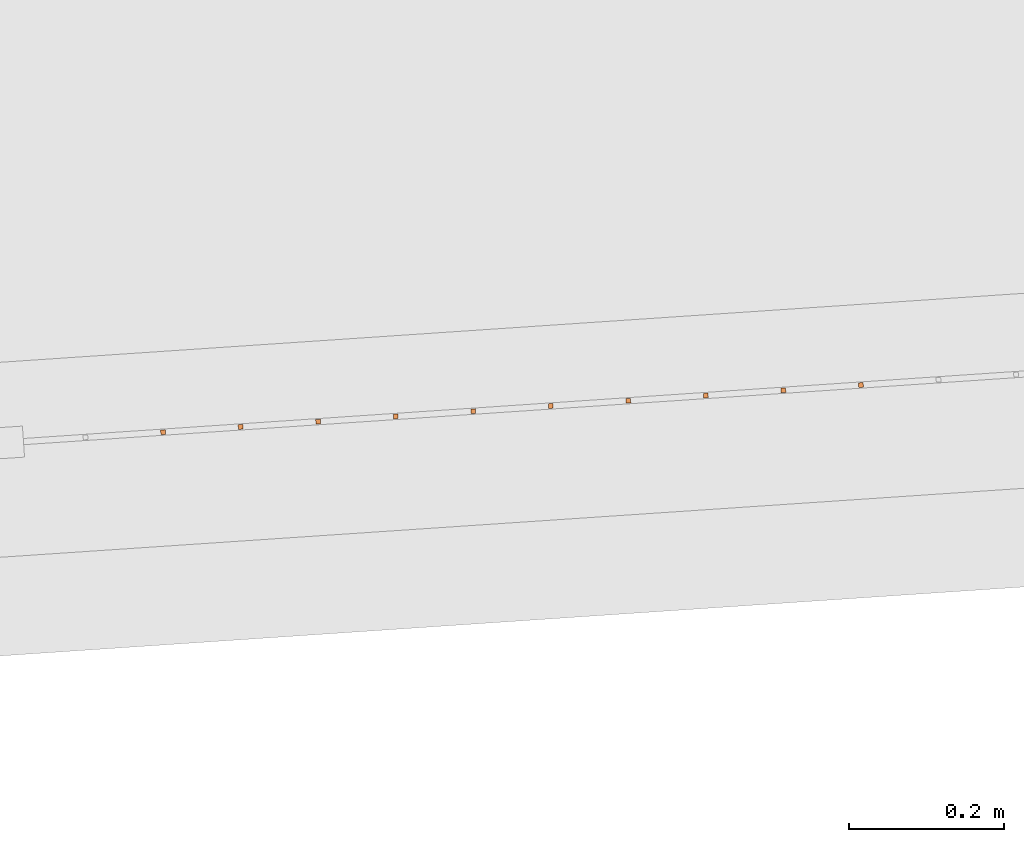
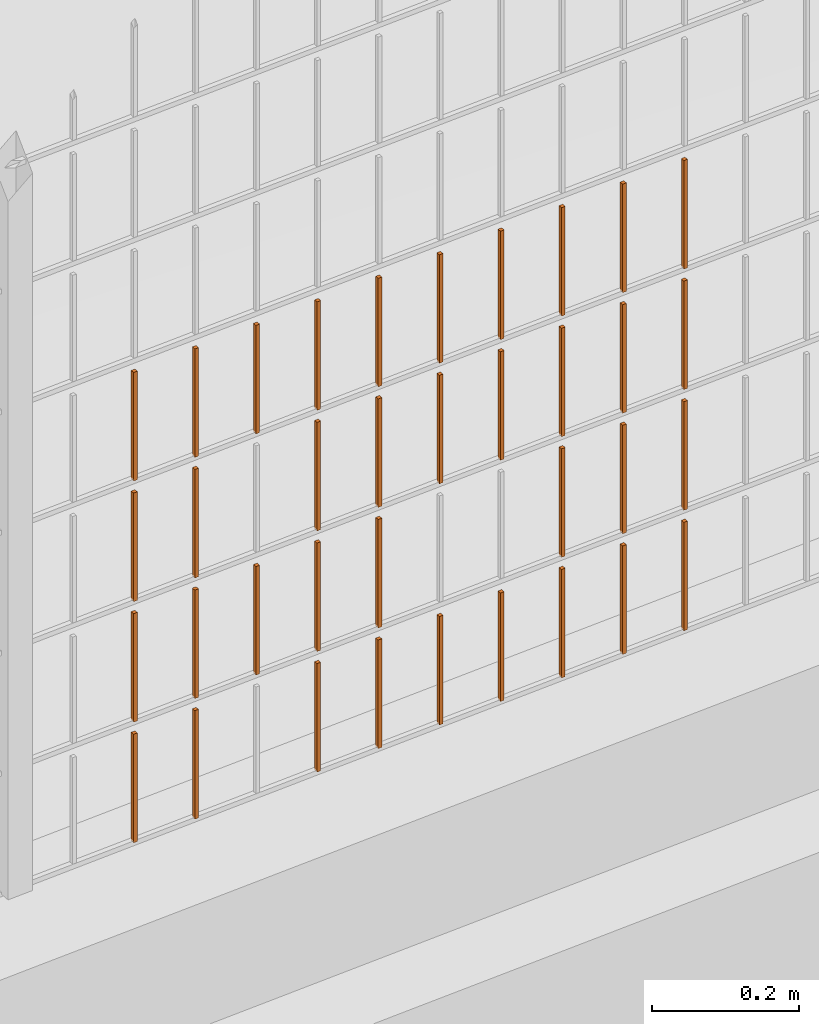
# One storey, part 366 of 1809: 36 proxies, 1 element without a shape of its own.
"""IFC2X3 building model written with IfcOpenShell, lengths in millimetres."""

import ifcopenshell
import ifcopenshell.guid

model = None  # the IFC model being written
_history = None  # IfcOwnerHistory: only IFC2X3 demands one
_inside = {}  # id of a spatial element -> (the spatial element, [elements in it])
_under = {}  # id of a project, library or spatial element -> (it, [spatial elements below it])
_declared = {}  # id of a project -> (the project, [libraries it declares])
_typed = {}  # id of a type object -> (the type object, [elements of that type])
_made_of = {}  # id of a material, layer set ... -> (it, [elements and type objects made of it])


def new_model(schema):
    """Start an empty IFC model of exactly this schema.

    Asked for "IFC4X3", IfcOpenShell would pick the latest addendum, in which some entities
    have other attributes; the version numbers below select the first issue.
    IFC2X3 requires an IfcOwnerHistory on every rooted entity: one is made here for all.
    """
    global model, _history
    if schema == "IFC4X3":
        model = ifcopenshell.file(schema_version=(4, 3, 0, 0))
    else:
        model = ifcopenshell.file(schema=schema)
    _inside.clear()
    _under.clear()
    _declared.clear()
    _typed.clear()
    _made_of.clear()
    _history = None
    if model.schema == "IFC2X3":
        org = make("IfcOrganization", Name="unknown")
        user = make(
            "IfcPersonAndOrganization",
            ThePerson=make("IfcPerson", FamilyName="unknown"),
            TheOrganization=org,
        )
        app = make(
            "IfcApplication",
            ApplicationDeveloper=org,
            Version="unknown",
            ApplicationFullName="unknown",
            ApplicationIdentifier="unknown",
        )
        _history = make(
            "IfcOwnerHistory",
            OwningUser=user,
            OwningApplication=app,
            ChangeAction="ADDED",
            CreationDate=0,
        )
    return model


def make(cls, **values):
    """One entity of the class cls with the attributes given. An attribute that is None is left unset."""
    return model.create_entity(
        cls, **{name: value for name, value in values.items() if value is not None}
    )


def entity(cls, *values):
    """Any entity or typed value of the class cls, its attributes in the order of the schema. None: left unset."""
    e = model.create_entity(cls)
    for i, value in enumerate(values):
        if value is not None:
            e[i] = value
    return e


def rooted(cls, **values):
    """An entity with a GlobalId (a new one), such as an element, a storey or a relation."""
    return make(cls, GlobalId=ifcopenshell.guid.new(), OwnerHistory=_history, **values)


def si_unit(unit_type, name, prefix=None):
    """IfcSIUnit, for example si_unit("LENGTHUNIT", "METRE", prefix="MILLI")."""
    return make("IfcSIUnit", UnitType=unit_type, Prefix=prefix, Name=name)


def converted_unit(unit_type, name, factor, base, dimensions=None, offset=None):
    """IfcConversionBasedUnit, such as the inch: factor (a typed value) times the base unit."""
    return make(
        "IfcConversionBasedUnit"
        if offset is None
        else "IfcConversionBasedUnitWithOffset",
        ConversionOffset=offset,
        Dimensions=None
        if dimensions is None
        else entity("IfcDimensionalExponents", *dimensions),
        UnitType=unit_type,
        Name=name,
        ConversionFactor=make(
            "IfcMeasureWithUnit", ValueComponent=factor, UnitComponent=base
        ),
    )


def derived_unit(unit_type, elements):
    """IfcDerivedUnit: a product of units, each with its exponent."""
    return make(
        "IfcDerivedUnit",
        Elements=[
            make("IfcDerivedUnitElement", Unit=unit, Exponent=power)
            for unit, power in elements
        ],
        UnitType=unit_type,
    )


def money_unit(currency):
    """IfcMonetaryUnit."""
    return make("IfcMonetaryUnit", Currency=currency)


def assignment(units):
    """IfcUnitAssignment: the units of a project."""
    return None if units is None else make("IfcUnitAssignment", Units=units)


def point(xyz):
    """IfcCartesianPoint."""
    return None if xyz is None else make("IfcCartesianPoint", Coordinates=xyz)


def direction(xyz):
    """IfcDirection."""
    return None if xyz is None else make("IfcDirection", DirectionRatios=xyz)


def frame(location, z_axis=None, x_axis=None):
    """IfcAxis2Placement3D, a coordinate frame: its origin and axes. An axis left out is left unset."""
    return make(
        "IfcAxis2Placement3D",
        Location=point(location),
        Axis=direction(z_axis),
        RefDirection=direction(x_axis),
    )


def origin_with_axes():
    """The frame at (0, 0, 0) with the z axis (0, 0, 1) and the x axis (1, 0, 0) written out."""
    return frame((0.0, 0.0, 0.0), z_axis=(0.0, 0.0, 1.0), x_axis=(1.0, 0.0, 0.0))


def place(relative_to, where):
    """IfcLocalPlacement: puts the frame where relative to a parent placement (None: the world)."""
    return make(
        "IfcLocalPlacement", PlacementRelTo=relative_to, RelativePlacement=where
    )


def context(
    kind, dimensions, precision=None, world=None, true_north=None, identifier=None
):
    """IfcGeometricRepresentationContext, for example the 3D "Model" context."""
    return make(
        "IfcGeometricRepresentationContext",
        ContextIdentifier=identifier,
        ContextType=kind,
        CoordinateSpaceDimension=dimensions,
        Precision=precision,
        WorldCoordinateSystem=world,
        TrueNorth=true_north,
    )


def subcontext(parent, identifier, kind, view, scale=None):
    """IfcGeometricRepresentationSubContext, for example "Body" below "Model"."""
    return make(
        "IfcGeometricRepresentationSubContext",
        ContextIdentifier=identifier,
        ContextType=kind,
        ParentContext=parent,
        TargetScale=scale,
        TargetView=view,
    )


def project(units=None, contexts=None):
    """IfcProject with its units and contexts."""
    return rooted(
        "IfcProject",
        Name="project",
        RepresentationContexts=contexts,
        UnitsInContext=assignment(units),
    )


def spatial(cls, under=None, at=None, **own):
    """A site, building, storey or space (cls), placed at a placement, below another one or the project."""
    s = rooted(cls, ObjectPlacement=at, **own)
    if under is not None:
        _under.setdefault(under.id(), (under, []))[1].append(s)
    return s


def faces_of(points, faces, orient=None, outer=None):
    """IfcFace entities. A face is a list of loops; a loop is a list of indices into points, from 0.

    orient and outer hold one flag for each loop. By default every Orientation is true, the
    first loop of a face is its IfcFaceOuterBound and the others are IfcFaceBound.
    """
    made = []
    for i, loops in enumerate(faces):
        bounds = []
        for j, loop in enumerate(loops):
            is_outer = j == 0 if outer is None else outer[i][j]
            bounds.append(
                make(
                    "IfcFaceOuterBound" if is_outer else "IfcFaceBound",
                    Bound=make("IfcPolyLoop", Polygon=[points[k] for k in loop]),
                    Orientation=True if orient is None else orient[i][j],
                )
            )
        made.append(make("IfcFace", Bounds=bounds))
    return made


def faceted_brep(points, faces, orient=None, outer=None, voids=None):
    """IfcFacetedBrep: a solid bounded by flat faces; with voids (closed shells), ...WithVoids."""
    shared = [point(p) for p in points]
    hull = make("IfcClosedShell", CfsFaces=faces_of(shared, faces, orient, outer))
    if voids is None:
        return make("IfcFacetedBrep", Outer=hull)
    return make(
        "IfcFacetedBrepWithVoids",
        Outer=hull,
        Voids=[
            make(cls, CfsFaces=faces_of(shared, fs, o, b)) for cls, fs, o, b in voids
        ],
    )


def shape(context_of_items, identifier, shape_type, items):
    """IfcShapeRepresentation: the items that make up one representation, for example the "Body"."""
    return make(
        "IfcShapeRepresentation",
        ContextOfItems=context_of_items,
        RepresentationIdentifier=identifier,
        RepresentationType=shape_type,
        Items=items,
    )


def source(mapping_origin, context_of_items, identifier, shape_type, items):
    """IfcRepresentationMap: a shape defined once, which mapped items show again and again."""
    return make(
        "IfcRepresentationMap",
        MappingOrigin=mapping_origin,
        MappedRepresentation=shape(context_of_items, identifier, shape_type, items),
    )


def transform(
    local_origin,
    x_axis=None,
    y_axis=None,
    z_axis=None,
    scale=None,
    scale2=None,
    scale3=None,
    uniform=True,
):
    """IfcCartesianTransformationOperator3D, or its non-uniform kind. x_axis, y_axis, z_axis: its Axis1, 2, 3."""
    if uniform:
        return make(
            "IfcCartesianTransformationOperator3D",
            Axis1=direction(x_axis),
            Axis2=direction(y_axis),
            LocalOrigin=point(local_origin),
            Scale=scale,
            Axis3=direction(z_axis),
        )
    return make(
        "IfcCartesianTransformationOperator3DnonUniform",
        Axis1=direction(x_axis),
        Axis2=direction(y_axis),
        LocalOrigin=point(local_origin),
        Scale=scale,
        Axis3=direction(z_axis),
        Scale2=scale2,
        Scale3=scale3,
    )


def mapped(mapping_source, mapping_target):
    """IfcMappedItem: shows the shape of a source again, moved by a transform."""
    return make(
        "IfcMappedItem", MappingSource=mapping_source, MappingTarget=mapping_target
    )


def material(Name=None, Category=None):
    """IfcMaterial."""
    return make("IfcMaterial", Name=Name, Category=Category)


def made_of(thing, what):
    """Note that an element or type object is made of a material, layer set ...; save() writes the relation."""
    if what is not None:
        _made_of.setdefault(what.id(), (what, []))[1].append(thing)
    return thing


def type_object(cls, material=None, **own):
    """A type object (cls), such as IfcWallType, which elements share."""
    return made_of(rooted(cls, **own), material)


def element(
    cls,
    number,
    at=None,
    inside=None,
    cuts=None,
    type_object=None,
    material=None,
    context=None,
    identifier="Body",
    shape_type=None,
    held_by="IfcProductDefinitionShape",
    body=None,
    shapes=None,
    **own,
):
    """One element of the class cls, such as IfcWall. Its Tag is "e" and its number.

    at: its placement. inside: the storey or other place that contains it. cuts: it is an
    opening in that element (IfcRelVoidsElement). A single representation is given by context,
    identifier, shape_type and body (its items); several are given by shapes. held_by: the class
    of the entity that holds the representations. save() writes the other relations.
    """
    e = rooted(cls, Tag="e%d" % number, ObjectPlacement=at, **own)
    if body is not None:
        shapes = [shape(context, identifier, shape_type, body)]
    if shapes is not None:
        e.Representation = make(held_by, Representations=shapes)
    if inside is not None:
        _inside.setdefault(inside.id(), (inside, []))[1].append(e)
    if cuts is not None:
        rooted(
            "IfcRelVoidsElement", RelatingBuildingElement=cuts, RelatedOpeningElement=e
        )
    if type_object is not None:
        _typed.setdefault(type_object.id(), (type_object, []))[1].append(e)
    return made_of(e, material)


def aggregate(whole, parts):
    """IfcRelAggregates: a whole, such as a stair, and the parts it consists of."""
    return rooted("IfcRelAggregates", RelatingObject=whole, RelatedObjects=parts)


def save(model, path):
    """Write the relations noted so far, then the file.

    IfcRelAggregates (storeys below a building ...), IfcRelContainedInSpatialStructure (elements
    in a storey), IfcRelDefinesByType, IfcRelAssociatesMaterial and IfcRelDeclares: one each for
    every whole, place, type object, material and project.
    """
    for whole, parts in _under.values():
        aggregate(whole, parts)
    for where, things in _inside.values():
        rooted(
            "IfcRelContainedInSpatialStructure",
            RelatedElements=things,
            RelatingStructure=where,
        )
    for kind, things in _typed.values():
        rooted("IfcRelDefinesByType", RelatedObjects=things, RelatingType=kind)
    for what, things in _made_of.values():
        rooted("IfcRelAssociatesMaterial", RelatedObjects=things, RelatingMaterial=what)
    for by, libraries in _declared.values():
        rooted("IfcRelDeclares", RelatingContext=by, RelatedDefinitions=libraries)
    model.write(path)


model = new_model("IFC2X3")

# Units and contexts
model_context = context("Model", 3, precision=0.01, world=origin_with_axes(), true_north=direction((0.0, 1.0)))
body_context = subcontext(model_context, "Body", "Model", "MODEL_VIEW")
ifc_project = project(units=[si_unit("LENGTHUNIT", "METRE", prefix="MILLI"), si_unit("AREAUNIT", "SQUARE_METRE"), si_unit("VOLUMEUNIT", "CUBIC_METRE"), converted_unit("PLANEANGLEUNIT", "DEGREE", entity("IfcPlaneAngleMeasure", 0.0174532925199), si_unit("PLANEANGLEUNIT", "RADIAN"), dimensions=[0, 0, 0, 0, 0, 0, 0]), si_unit("SOLIDANGLEUNIT", "STERADIAN"), money_unit("EUR"), converted_unit("TIMEUNIT", "Year", entity("IfcTimeMeasure", 31556926.0), si_unit("TIMEUNIT", "SECOND"), dimensions=[0, 0, 1, 0, 0, 0, 0]), si_unit("MASSUNIT", "GRAM", prefix="KILO"), si_unit("THERMODYNAMICTEMPERATUREUNIT", "DEGREE_CELSIUS"), si_unit("LUMINOUSINTENSITYUNIT", "LUMEN"), si_unit("ENERGYUNIT", "JOULE", prefix="MEGA"), derived_unit("THERMALCONDUCTANCEUNIT", [(si_unit("POWERUNIT", "WATT"), 1), (si_unit("LENGTHUNIT", "METRE"), -1), (si_unit("THERMODYNAMICTEMPERATUREUNIT", "KELVIN"), -1)]), derived_unit("SPECIFICHEATCAPACITYUNIT", [(si_unit("ENERGYUNIT", "JOULE"), 1), (si_unit("MASSUNIT", "GRAM", prefix="KILO"), -1), (si_unit("THERMODYNAMICTEMPERATUREUNIT", "KELVIN"), -1)]), derived_unit("MASSDENSITYUNIT", [(si_unit("MASSUNIT", "GRAM", prefix="KILO"), 1), (si_unit("VOLUMEUNIT", "CUBIC_METRE"), -1)])], contexts=[model_context])

# Site, building, storey
site_placement = place(None, origin_with_axes())
site = spatial("IfcSite", under=ifc_project, at=site_placement, Name="Politse- ja Piirivalveameti ning Päästeameti ühishoone", CompositionType="ELEMENT")
building_placement = place(site_placement, origin_with_axes())
building = spatial("IfcBuilding", under=site, at=building_placement, Name="Politse- ja Piirivalveameti ning Päästeameti ühishoone", CompositionType="ELEMENT")
storey_placement = place(building_placement, origin_with_axes())
storey = spatial("IfcBuildingStorey", under=building, at=storey_placement, Name="Esimene korrus", CompositionType="ELEMENT", Elevation=0.0)

# Proxies
building_element_proxy_type_1 = type_object("IfcBuildingElementProxyType", Name="Railing Type", PredefinedType="NOTDEFINED")
proxy_1_placement = place(storey_placement, frame((89252.001212, -29183.4766571, 203.661247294), z_axis=(0.0, 0.0, 1.0), x_axis=(1.0, 0.0, 0.0)))
proxy_1 = element("IfcBuildingElementProxy", 1, at=proxy_1_placement, inside=storey, type_object=building_element_proxy_type_1, Name="PIIRDEAED")
ifc_material = material(Name="ET-03_Raud")
building_element_proxy_type_2 = type_object("IfcBuildingElementProxyType", Name="IfcBuildingElementProxy", PredefinedType="NOTDEFINED")
shared_shape_1 = source(origin_with_axes(), body_context, "Body", "Brep", [
    faceted_brep([(3.0, 3.0, -0.000752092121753), (-3.0, 3.0, -0.000752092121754), (-3.0, 3.0, 179.99926046), (3.0, 3.0, 179.99926046), (3.0, -3.0, 0.000752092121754), (-3.0, -3.0, 0.000752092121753), (-3.0, -3.0, 180.000764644), (3.0, -3.0, 180.000764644)], [[[0, 1, 2, 3]], [[0, 4, 5, 1]], [[1, 5, 6, 2]], [[3, 2, 6, 7]], [[4, 0, 3, 7]], [[5, 4, 7, 6]]]),
])
proxy_2_placement = place(proxy_1_placement, frame((-21777.0656543, -18768.7333629, 21.7624921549), z_axis=(0.0, 0.0, 1.0), x_axis=(1.0, 0.0, 0.0)))
proxy_2 = element("IfcBuildingElementProxy", 2, at=proxy_2_placement, type_object=building_element_proxy_type_2, material=ifc_material, Name="BALUSTER - 001", context=body_context, shape_type="MappedRepresentation", body=[
    mapped(shared_shape_1, transform((0.0, 0.0, 0.0), x_axis=(-0.0673926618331, 0.997726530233, 0.0), y_axis=(-0.997726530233, -0.0673926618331, 0.0), z_axis=(0.0, 0.0, 1.0))),
])
shared_shape_2 = source(origin_with_axes(), body_context, "Body", "Brep", [
    faceted_brep([(3.0, 3.0, -0.000752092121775), (-3.0, 3.0, -0.000752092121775), (-3.0, 3.0, 179.99926046), (3.0, 3.0, 179.99926046), (3.0, -3.0, 0.000752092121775), (-3.0, -3.0, 0.000752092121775), (-3.0, -3.0, 180.000764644), (3.0, -3.0, 180.000764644)], [[[0, 1, 2, 3]], [[0, 4, 5, 1]], [[1, 5, 6, 2]], [[3, 2, 6, 7]], [[4, 0, 3, 7]], [[5, 4, 7, 6]]]),
])
proxy_3_placement = place(proxy_1_placement, frame((-21377.9750422, -18741.7762981, 21.8627711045), z_axis=(0.0, 0.0, 1.0), x_axis=(1.0, 0.0, 0.0)))
proxy_3 = element("IfcBuildingElementProxy", 3, at=proxy_3_placement, type_object=building_element_proxy_type_2, material=ifc_material, Name="BALUSTER - 001", context=body_context, shape_type="MappedRepresentation", body=[
    mapped(shared_shape_2, transform((0.0, 0.0, 0.0), x_axis=(-0.0673926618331, 0.997726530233, 0.0), y_axis=(-0.997726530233, -0.0673926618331, 0.0), z_axis=(0.0, 0.0, 1.0))),
])
shared_shape_3 = source(origin_with_axes(), body_context, "Body", "Brep", [
    faceted_brep([(3.0, 3.0, -0.000752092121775), (-3.0, 3.0, -0.000752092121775), (-3.0, 3.0, 179.99926046), (3.0, 3.0, 179.99926046), (3.0, -3.0, 0.000752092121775), (-3.0, -3.0, 0.000752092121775), (-3.0, -3.0, 180.000764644), (3.0, -3.0, 180.000764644)], [[[0, 1, 2, 3]], [[0, 4, 5, 1]], [[1, 5, 6, 2]], [[3, 2, 6, 7]], [[4, 0, 3, 7]], [[5, 4, 7, 6]]]),
])
proxy_4_placement = place(proxy_1_placement, frame((-21377.9750422, -18741.7762981, 421.862771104), z_axis=(0.0, 0.0, 1.0), x_axis=(1.0, 0.0, 0.0)))
proxy_4 = element("IfcBuildingElementProxy", 4, at=proxy_4_placement, type_object=building_element_proxy_type_2, material=ifc_material, Name="BALUSTER - 001", context=body_context, shape_type="MappedRepresentation", body=[
    mapped(shared_shape_3, transform((0.0, 0.0, 0.0), x_axis=(-0.0673926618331, 0.997726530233, 0.0), y_axis=(-0.997726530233, -0.0673926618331, 0.0), z_axis=(0.0, 0.0, 1.0))),
])
proxy_5_placement = place(proxy_1_placement, frame((-21377.9750422, -18741.7762981, 621.862771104), z_axis=(0.0, 0.0, 1.0), x_axis=(1.0, 0.0, 0.0)))
proxy_5 = element("IfcBuildingElementProxy", 5, at=proxy_5_placement, type_object=building_element_proxy_type_2, material=ifc_material, Name="BALUSTER - 001", context=body_context, shape_type="MappedRepresentation", body=[
    mapped(shared_shape_3, transform((0.0, 0.0, 0.0), x_axis=(-0.0673926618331, 0.997726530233, 0.0), y_axis=(-0.997726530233, -0.0673926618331, 0.0), z_axis=(0.0, 0.0, 1.0))),
])
proxy_6_placement = place(proxy_1_placement, frame((-21577.5203482, -18755.2548305, 621.81263163), z_axis=(0.0, 0.0, 1.0), x_axis=(1.0, 0.0, 0.0)))
proxy_6 = element("IfcBuildingElementProxy", 6, at=proxy_6_placement, type_object=building_element_proxy_type_2, material=ifc_material, Name="BALUSTER - 001", context=body_context, shape_type="MappedRepresentation", body=[
    mapped(shared_shape_3, transform((0.0, 0.0, 0.0), x_axis=(-0.0673926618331, 0.997726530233, 0.0), y_axis=(-0.997726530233, -0.0673926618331, 0.0), z_axis=(0.0, 0.0, 1.0))),
])
shared_shape_4 = source(origin_with_axes(), body_context, "Body", "Brep", [
    faceted_brep([(3.0, 3.0, -0.000752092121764), (-3.0, 3.0, -0.000752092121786), (-3.0, 3.0, 179.99926046), (3.0, 3.0, 179.99926046), (3.0, -3.0, 0.000752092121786), (-3.0, -3.0, 0.000752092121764), (-3.0, -3.0, 180.000764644), (3.0, -3.0, 180.000764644)], [[[0, 1, 2, 3]], [[0, 4, 5, 1]], [[1, 5, 6, 2]], [[3, 2, 6, 7]], [[4, 0, 3, 7]], [[5, 4, 7, 6]]]),
])
proxy_7_placement = place(proxy_1_placement, frame((-21477.7476952, -18748.5155643, 421.837701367), z_axis=(0.0, 0.0, 1.0), x_axis=(1.0, 0.0, 0.0)))
proxy_7 = element("IfcBuildingElementProxy", 7, at=proxy_7_placement, type_object=building_element_proxy_type_2, material=ifc_material, Name="BALUSTER - 001", context=body_context, shape_type="MappedRepresentation", body=[
    mapped(shared_shape_4, transform((0.0, 0.0, 0.0), x_axis=(-0.0673926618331, 0.997726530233, 0.0), y_axis=(-0.997726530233, -0.0673926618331, 0.0), z_axis=(0.0, 0.0, 1.0))),
])
shared_shape_5 = source(origin_with_axes(), body_context, "Body", "Brep", [
    faceted_brep([(3.0, 3.0, -0.000752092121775), (-3.0, 3.0, -0.000752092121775), (-3.0, 3.0, 179.99926046), (3.0, 3.0, 179.99926046), (3.0, -3.0, 0.000752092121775), (-3.0, -3.0, 0.000752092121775), (-3.0, -3.0, 180.000764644), (3.0, -3.0, 180.000764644)], [[[0, 1, 2, 3]], [[0, 4, 5, 1]], [[1, 5, 6, 2]], [[3, 2, 6, 7]], [[4, 0, 3, 7]], [[5, 4, 7, 6]]]),
])
proxy_8_placement = place(proxy_1_placement, frame((-21178.4297361, -18728.2977658, 421.912910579), z_axis=(0.0, 0.0, 1.0), x_axis=(1.0, 0.0, 0.0)))
proxy_8 = element("IfcBuildingElementProxy", 8, at=proxy_8_placement, type_object=building_element_proxy_type_2, material=ifc_material, Name="BALUSTER - 001", context=body_context, shape_type="MappedRepresentation", body=[
    mapped(shared_shape_5, transform((0.0, 0.0, 0.0), x_axis=(-0.0673926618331, 0.997726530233, 0.0), y_axis=(-0.997726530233, -0.0673926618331, 0.0), z_axis=(0.0, 0.0, 1.0))),
])
shared_shape_6 = source(origin_with_axes(), body_context, "Body", "Brep", [
    faceted_brep([(3.0, 3.0, -0.000752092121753), (-3.0, 3.0, -0.000752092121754), (-3.0, 3.0, 179.99926046), (3.0, 3.0, 179.99926046), (3.0, -3.0, 0.000752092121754), (-3.0, -3.0, 0.000752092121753), (-3.0, -3.0, 180.000764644), (3.0, -3.0, 180.000764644)], [[[0, 1, 2, 3]], [[0, 4, 5, 1]], [[1, 5, 6, 2]], [[3, 2, 6, 7]], [[4, 0, 3, 7]], [[5, 4, 7, 6]]]),
])
proxy_9_placement = place(proxy_1_placement, frame((-21777.0656543, -18768.7333629, 221.762492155), z_axis=(0.0, 0.0, 1.0), x_axis=(1.0, 0.0, 0.0)))
proxy_9 = element("IfcBuildingElementProxy", 9, at=proxy_9_placement, type_object=building_element_proxy_type_2, material=ifc_material, Name="BALUSTER - 001", context=body_context, shape_type="MappedRepresentation", body=[
    mapped(shared_shape_6, transform((0.0, 0.0, 0.0), x_axis=(-0.0673926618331, 0.997726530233, 0.0), y_axis=(-0.997726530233, -0.0673926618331, 0.0), z_axis=(0.0, 0.0, 1.0))),
])
proxy_10_placement = place(proxy_1_placement, frame((-21777.0656543, -18768.7333629, 421.762492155), z_axis=(0.0, 0.0, 1.0), x_axis=(1.0, 0.0, 0.0)))
proxy_10 = element("IfcBuildingElementProxy", 10, at=proxy_10_placement, type_object=building_element_proxy_type_2, material=ifc_material, Name="BALUSTER - 001", context=body_context, shape_type="MappedRepresentation", body=[
    mapped(shared_shape_6, transform((0.0, 0.0, 0.0), x_axis=(-0.0673926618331, 0.997726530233, 0.0), y_axis=(-0.997726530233, -0.0673926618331, 0.0), z_axis=(0.0, 0.0, 1.0))),
])
shared_shape_7 = source(origin_with_axes(), body_context, "Body", "Brep", [
    faceted_brep([(3.0, 3.0, -0.000752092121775), (-3.0, 3.0, -0.000752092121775), (-3.0, 3.0, 179.99926046), (3.0, 3.0, 179.99926046), (3.0, -3.0, 0.000752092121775), (-3.0, -3.0, 0.000752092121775), (-3.0, -3.0, 180.000764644), (3.0, -3.0, 180.000764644)], [[[0, 1, 2, 3]], [[0, 4, 5, 1]], [[1, 5, 6, 2]], [[3, 2, 6, 7]], [[4, 0, 3, 7]], [[5, 4, 7, 6]]]),
])
proxy_11_placement = place(proxy_1_placement, frame((-21178.4297361, -18728.2977658, 221.912910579), z_axis=(0.0, 0.0, 1.0), x_axis=(1.0, 0.0, 0.0)))
proxy_11 = element("IfcBuildingElementProxy", 11, at=proxy_11_placement, type_object=building_element_proxy_type_2, material=ifc_material, Name="BALUSTER - 001", context=body_context, shape_type="MappedRepresentation", body=[
    mapped(shared_shape_7, transform((0.0, 0.0, 0.0), x_axis=(-0.0673926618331, 0.997726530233, 0.0), y_axis=(-0.997726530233, -0.0673926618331, 0.0), z_axis=(0.0, 0.0, 1.0))),
])
proxy_12_placement = place(proxy_1_placement, frame((-21278.2023891, -18735.037032, 221.887840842), z_axis=(0.0, 0.0, 1.0), x_axis=(1.0, 0.0, 0.0)))
proxy_12 = element("IfcBuildingElementProxy", 12, at=proxy_12_placement, type_object=building_element_proxy_type_2, material=ifc_material, Name="BALUSTER - 001", context=body_context, shape_type="MappedRepresentation", body=[
    mapped(shared_shape_7, transform((0.0, 0.0, 0.0), x_axis=(-0.0673926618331, 0.997726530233, 0.0), y_axis=(-0.997726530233, -0.0673926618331, 0.0), z_axis=(0.0, 0.0, 1.0))),
])
proxy_13_placement = place(proxy_1_placement, frame((-21278.2023891, -18735.037032, 421.887840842), z_axis=(0.0, 0.0, 1.0), x_axis=(1.0, 0.0, 0.0)))
proxy_13 = element("IfcBuildingElementProxy", 13, at=proxy_13_placement, type_object=building_element_proxy_type_2, material=ifc_material, Name="BALUSTER - 001", context=body_context, shape_type="MappedRepresentation", body=[
    mapped(shared_shape_7, transform((0.0, 0.0, 0.0), x_axis=(-0.0673926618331, 0.997726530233, 0.0), y_axis=(-0.997726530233, -0.0673926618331, 0.0), z_axis=(0.0, 0.0, 1.0))),
])
proxy_14_placement = place(proxy_1_placement, frame((-21677.2930012, -18761.9940967, 421.787561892), z_axis=(0.0, 0.0, 1.0), x_axis=(1.0, 0.0, 0.0)))
proxy_14 = element("IfcBuildingElementProxy", 14, at=proxy_14_placement, type_object=building_element_proxy_type_2, material=ifc_material, Name="BALUSTER - 001", context=body_context, shape_type="MappedRepresentation", body=[
    mapped(shared_shape_7, transform((0.0, 0.0, 0.0), x_axis=(-0.0673926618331, 0.997726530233, 0.0), y_axis=(-0.997726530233, -0.0673926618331, 0.0), z_axis=(0.0, 0.0, 1.0))),
])
proxy_15_placement = place(proxy_1_placement, frame((-21178.4297361, -18728.2977658, 621.912910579), z_axis=(0.0, 0.0, 1.0), x_axis=(1.0, 0.0, 0.0)))
proxy_15 = element("IfcBuildingElementProxy", 15, at=proxy_15_placement, type_object=building_element_proxy_type_2, material=ifc_material, Name="BALUSTER - 001", context=body_context, shape_type="MappedRepresentation", body=[
    mapped(shared_shape_7, transform((0.0, 0.0, 0.0), x_axis=(-0.0673926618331, 0.997726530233, 0.0), y_axis=(-0.997726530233, -0.0673926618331, 0.0), z_axis=(0.0, 0.0, 1.0))),
])
shared_shape_8 = source(origin_with_axes(), body_context, "Body", "Brep", [
    faceted_brep([(3.0, 3.0, -0.000752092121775), (-3.0, 3.0, -0.000752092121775), (-3.0, 3.0, 179.99926046), (3.0, 3.0, 179.99926046), (3.0, -3.0, 0.000752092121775), (-3.0, -3.0, 0.000752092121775), (-3.0, -3.0, 180.000764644), (3.0, -3.0, 180.000764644)], [[[0, 1, 2, 3]], [[0, 4, 5, 1]], [[1, 5, 6, 2]], [[3, 2, 6, 7]], [[4, 0, 3, 7]], [[5, 4, 7, 6]]]),
])
proxy_16_placement = place(proxy_1_placement, frame((-21677.2930012, -18761.9940967, 621.787561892), z_axis=(0.0, 0.0, 1.0), x_axis=(1.0, 0.0, 0.0)))
proxy_16 = element("IfcBuildingElementProxy", 16, at=proxy_16_placement, type_object=building_element_proxy_type_2, material=ifc_material, Name="BALUSTER - 001", context=body_context, shape_type="MappedRepresentation", body=[
    mapped(shared_shape_8, transform((0.0, 0.0, 0.0), x_axis=(-0.0673926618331, 0.997726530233, 0.0), y_axis=(-0.997726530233, -0.0673926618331, 0.0), z_axis=(0.0, 0.0, 1.0))),
])
shared_shape_9 = source(origin_with_axes(), body_context, "Body", "Brep", [
    faceted_brep([(3.0, 3.0, -0.000752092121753), (-3.0, 3.0, -0.000752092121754), (-3.0, 3.0, 179.99926046), (3.0, 3.0, 179.99926046), (3.0, -3.0, 0.000752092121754), (-3.0, -3.0, 0.000752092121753), (-3.0, -3.0, 180.000764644), (3.0, -3.0, 180.000764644)], [[[0, 1, 2, 3]], [[0, 4, 5, 1]], [[1, 5, 6, 2]], [[3, 2, 6, 7]], [[4, 0, 3, 7]], [[5, 4, 7, 6]]]),
])
proxy_17_placement = place(proxy_1_placement, frame((-21777.0656543, -18768.7333629, 621.762492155), z_axis=(0.0, 0.0, 1.0), x_axis=(1.0, 0.0, 0.0)))
proxy_17 = element("IfcBuildingElementProxy", 17, at=proxy_17_placement, type_object=building_element_proxy_type_2, material=ifc_material, Name="BALUSTER - 001", context=body_context, shape_type="MappedRepresentation", body=[
    mapped(shared_shape_9, transform((0.0, 0.0, 0.0), x_axis=(-0.0673926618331, 0.997726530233, 0.0), y_axis=(-0.997726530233, -0.0673926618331, 0.0), z_axis=(0.0, 0.0, 1.0))),
])
shared_shape_10 = source(origin_with_axes(), body_context, "Body", "Brep", [
    faceted_brep([(3.0, 3.0, -0.000752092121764), (-3.0, 3.0, -0.000752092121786), (-3.0, 3.0, 179.99926046), (3.0, 3.0, 179.99926046), (3.0, -3.0, 0.000752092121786), (-3.0, -3.0, 0.000752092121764), (-3.0, -3.0, 180.000764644), (3.0, -3.0, 180.000764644)], [[[0, 1, 2, 3]], [[0, 4, 5, 1]], [[1, 5, 6, 2]], [[3, 2, 6, 7]], [[4, 0, 3, 7]], [[5, 4, 7, 6]]]),
])
proxy_18_placement = place(proxy_1_placement, frame((-21477.7476952, -18748.5155643, 621.837701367), z_axis=(0.0, 0.0, 1.0), x_axis=(1.0, 0.0, 0.0)))
proxy_18 = element("IfcBuildingElementProxy", 18, at=proxy_18_placement, type_object=building_element_proxy_type_2, material=ifc_material, Name="BALUSTER - 001", context=body_context, shape_type="MappedRepresentation", body=[
    mapped(shared_shape_10, transform((0.0, 0.0, 0.0), x_axis=(-0.0673926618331, 0.997726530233, 0.0), y_axis=(-0.997726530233, -0.0673926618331, 0.0), z_axis=(0.0, 0.0, 1.0))),
])
shared_shape_11 = source(origin_with_axes(), body_context, "Body", "Brep", [
    faceted_brep([(3.0, 3.0, -0.000752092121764), (-3.0, 3.0, -0.000752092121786), (-3.0, 3.0, 179.99926046), (3.0, 3.0, 179.99926046), (3.0, -3.0, 0.000752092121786), (-3.0, -3.0, 0.000752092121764), (-3.0, -3.0, 180.000764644), (3.0, -3.0, 180.000764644)], [[[0, 1, 2, 3]], [[0, 4, 5, 1]], [[1, 5, 6, 2]], [[3, 2, 6, 7]], [[4, 0, 3, 7]], [[5, 4, 7, 6]]]),
])
proxy_19_placement = place(proxy_1_placement, frame((-21477.7476952, -18748.5155643, 21.8377013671), z_axis=(0.0, 0.0, 1.0), x_axis=(1.0, 0.0, 0.0)))
proxy_19 = element("IfcBuildingElementProxy", 19, at=proxy_19_placement, type_object=building_element_proxy_type_2, material=ifc_material, Name="BALUSTER - 001", context=body_context, shape_type="MappedRepresentation", body=[
    mapped(shared_shape_11, transform((0.0, 0.0, 0.0), x_axis=(-0.0673926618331, 0.997726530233, 0.0), y_axis=(-0.997726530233, -0.0673926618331, 0.0), z_axis=(0.0, 0.0, 1.0))),
])
shared_shape_12 = source(origin_with_axes(), body_context, "Body", "Brep", [
    faceted_brep([(3.0, 3.0, -0.000752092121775), (-3.0, 3.0, -0.000752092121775), (-3.0, 3.0, 179.99926046), (3.0, 3.0, 179.99926046), (3.0, -3.0, 0.000752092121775), (-3.0, -3.0, 0.000752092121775), (-3.0, -3.0, 180.000764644), (3.0, -3.0, 180.000764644)], [[[0, 1, 2, 3]], [[0, 4, 5, 1]], [[1, 5, 6, 2]], [[3, 2, 6, 7]], [[4, 0, 3, 7]], [[5, 4, 7, 6]]]),
])
proxy_20_placement = place(proxy_1_placement, frame((-21677.2930012, -18761.9940967, 21.7875618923), z_axis=(0.0, 0.0, 1.0), x_axis=(1.0, 0.0, 0.0)))
proxy_20 = element("IfcBuildingElementProxy", 20, at=proxy_20_placement, type_object=building_element_proxy_type_2, material=ifc_material, Name="BALUSTER - 001", context=body_context, shape_type="MappedRepresentation", body=[
    mapped(shared_shape_12, transform((0.0, 0.0, 0.0), x_axis=(-0.0673926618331, 0.997726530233, 0.0), y_axis=(-0.997726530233, -0.0673926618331, 0.0), z_axis=(0.0, 0.0, 1.0))),
])
shared_shape_13 = source(origin_with_axes(), body_context, "Body", "Brep", [
    faceted_brep([(3.0, 3.0, -0.000752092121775), (-3.0, 3.0, -0.000752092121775), (-3.0, 3.0, 179.99926046), (3.0, 3.0, 179.99926046), (3.0, -3.0, 0.000752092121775), (-3.0, -3.0, 0.000752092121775), (-3.0, -3.0, 180.000764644), (3.0, -3.0, 180.000764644)], [[[0, 1, 2, 3]], [[0, 4, 5, 1]], [[1, 5, 6, 2]], [[3, 2, 6, 7]], [[4, 0, 3, 7]], [[5, 4, 7, 6]]]),
])
proxy_21_placement = place(proxy_1_placement, frame((-21278.2023891, -18735.037032, 21.8878408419), z_axis=(0.0, 0.0, 1.0), x_axis=(1.0, 0.0, 0.0)))
proxy_21 = element("IfcBuildingElementProxy", 21, at=proxy_21_placement, type_object=building_element_proxy_type_2, material=ifc_material, Name="BALUSTER - 001", context=body_context, shape_type="MappedRepresentation", body=[
    mapped(shared_shape_13, transform((0.0, 0.0, 0.0), x_axis=(-0.0673926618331, 0.997726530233, 0.0), y_axis=(-0.997726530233, -0.0673926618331, 0.0), z_axis=(0.0, 0.0, 1.0))),
])
shared_shape_14 = source(origin_with_axes(), body_context, "Body", "Brep", [
    faceted_brep([(3.0, 3.0, -0.000752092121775), (-3.0, 3.0, -0.000752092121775), (-3.0, 3.0, 179.99926046), (3.0, 3.0, 179.99926046), (3.0, -3.0, 0.000752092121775), (-3.0, -3.0, 0.000752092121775), (-3.0, -3.0, 180.000764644), (3.0, -3.0, 180.000764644)], [[[0, 1, 2, 3]], [[0, 4, 5, 1]], [[1, 5, 6, 2]], [[3, 2, 6, 7]], [[4, 0, 3, 7]], [[5, 4, 7, 6]]]),
])
proxy_22_placement = place(proxy_1_placement, frame((-21577.5203482, -18755.2548305, 21.8126316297), z_axis=(0.0, 0.0, 1.0), x_axis=(1.0, 0.0, 0.0)))
proxy_22 = element("IfcBuildingElementProxy", 22, at=proxy_22_placement, type_object=building_element_proxy_type_2, material=ifc_material, Name="BALUSTER - 001", context=body_context, shape_type="MappedRepresentation", body=[
    mapped(shared_shape_14, transform((0.0, 0.0, 0.0), x_axis=(-0.0673926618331, 0.997726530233, 0.0), y_axis=(-0.997726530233, -0.0673926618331, 0.0), z_axis=(0.0, 0.0, 1.0))),
])
shared_shape_15 = source(origin_with_axes(), body_context, "Body", "Brep", [
    faceted_brep([(3.0, 3.0, -0.000752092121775), (-3.0, 3.0, -0.000752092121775), (-3.0, 3.0, 179.99926046), (3.0, 3.0, 179.99926046), (3.0, -3.0, 0.000752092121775), (-3.0, -3.0, 0.000752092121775), (-3.0, -3.0, 180.000764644), (3.0, -3.0, 180.000764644)], [[[0, 1, 2, 3]], [[0, 4, 5, 1]], [[1, 5, 6, 2]], [[3, 2, 6, 7]], [[4, 0, 3, 7]], [[5, 4, 7, 6]]]),
])
proxy_23_placement = place(proxy_1_placement, frame((-21677.2930012, -18761.9940967, 221.787561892), z_axis=(0.0, 0.0, 1.0), x_axis=(1.0, 0.0, 0.0)))
proxy_23 = element("IfcBuildingElementProxy", 23, at=proxy_23_placement, type_object=building_element_proxy_type_2, material=ifc_material, Name="BALUSTER - 001", context=body_context, shape_type="MappedRepresentation", body=[
    mapped(shared_shape_15, transform((0.0, 0.0, 0.0), x_axis=(-0.0673926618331, 0.997726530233, 0.0), y_axis=(-0.997726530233, -0.0673926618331, 0.0), z_axis=(0.0, 0.0, 1.0))),
])
shared_shape_16 = source(origin_with_axes(), body_context, "Body", "Brep", [
    faceted_brep([(3.0, 3.0, -0.000752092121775), (-3.0, 3.0, -0.000752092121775), (-3.0, 3.0, 179.99926046), (3.0, 3.0, 179.99926046), (3.0, -3.0, 0.000752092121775), (-3.0, -3.0, 0.000752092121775), (-3.0, -3.0, 180.000764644), (3.0, -3.0, 180.000764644)], [[[0, 1, 2, 3]], [[0, 4, 5, 1]], [[1, 5, 6, 2]], [[3, 2, 6, 7]], [[4, 0, 3, 7]], [[5, 4, 7, 6]]]),
])
proxy_24_placement = place(proxy_1_placement, frame((-21377.9750422, -18741.7762981, 221.862771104), z_axis=(0.0, 0.0, 1.0), x_axis=(1.0, 0.0, 0.0)))
proxy_24 = element("IfcBuildingElementProxy", 24, at=proxy_24_placement, type_object=building_element_proxy_type_2, material=ifc_material, Name="BALUSTER - 001", context=body_context, shape_type="MappedRepresentation", body=[
    mapped(shared_shape_16, transform((0.0, 0.0, 0.0), x_axis=(-0.0673926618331, 0.997726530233, 0.0), y_axis=(-0.997726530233, -0.0673926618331, 0.0), z_axis=(0.0, 0.0, 1.0))),
])
proxy_25_placement = place(proxy_1_placement, frame((-21577.5203482, -18755.2548305, 421.81263163), z_axis=(0.0, 0.0, 1.0), x_axis=(1.0, 0.0, 0.0)))
proxy_25 = element("IfcBuildingElementProxy", 25, at=proxy_25_placement, type_object=building_element_proxy_type_2, material=ifc_material, Name="BALUSTER - 001", context=body_context, shape_type="MappedRepresentation", body=[
    mapped(shared_shape_16, transform((0.0, 0.0, 0.0), x_axis=(-0.0673926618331, 0.997726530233, 0.0), y_axis=(-0.997726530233, -0.0673926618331, 0.0), z_axis=(0.0, 0.0, 1.0))),
])
shared_shape_17 = source(origin_with_axes(), body_context, "Body", "Brep", [
    faceted_brep([(3.0, 3.0, -0.000752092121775), (-3.0, 3.0, -0.000752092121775), (-3.0, 3.0, 179.99926046), (3.0, 3.0, 179.99926046), (3.0, -3.0, 0.000752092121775), (-3.0, -3.0, 0.000752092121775), (-3.0, -3.0, 180.000764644), (3.0, -3.0, 180.000764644)], [[[0, 1, 2, 3]], [[0, 4, 5, 1]], [[1, 5, 6, 2]], [[3, 2, 6, 7]], [[4, 0, 3, 7]], [[5, 4, 7, 6]]]),
])
proxy_26_placement = place(proxy_1_placement, frame((-21278.2023891, -18735.037032, 621.887840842), z_axis=(0.0, 0.0, 1.0), x_axis=(1.0, 0.0, 0.0)))
proxy_26 = element("IfcBuildingElementProxy", 26, at=proxy_26_placement, type_object=building_element_proxy_type_2, material=ifc_material, Name="BALUSTER - 001", context=body_context, shape_type="MappedRepresentation", body=[
    mapped(shared_shape_17, transform((0.0, 0.0, 0.0), x_axis=(-0.0673926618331, 0.997726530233, 0.0), y_axis=(-0.997726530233, -0.0673926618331, 0.0), z_axis=(0.0, 0.0, 1.0))),
])
shared_shape_18 = source(origin_with_axes(), body_context, "Body", "Brep", [
    faceted_brep([(3.0, 3.0, -0.000752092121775), (-3.0, 3.0, -0.000752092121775), (-3.0, 3.0, 179.99926046), (3.0, 3.0, 179.99926046), (3.0, -3.0, 0.000752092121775), (-3.0, -3.0, 0.000752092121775), (-3.0, -3.0, 180.000764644), (3.0, -3.0, 180.000764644)], [[[0, 1, 2, 3]], [[0, 4, 5, 1]], [[1, 5, 6, 2]], [[3, 2, 6, 7]], [[4, 0, 3, 7]], [[5, 4, 7, 6]]]),
])
proxy_27_placement = place(proxy_1_placement, frame((-21178.4297361, -18728.2977658, 21.9129105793), z_axis=(0.0, 0.0, 1.0), x_axis=(1.0, 0.0, 0.0)))
proxy_27 = element("IfcBuildingElementProxy", 27, at=proxy_27_placement, type_object=building_element_proxy_type_2, material=ifc_material, Name="BALUSTER - 001", context=body_context, shape_type="MappedRepresentation", body=[
    mapped(shared_shape_18, transform((0.0, 0.0, 0.0), x_axis=(-0.0673926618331, 0.997726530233, 0.0), y_axis=(-0.997726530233, -0.0673926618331, 0.0), z_axis=(0.0, 0.0, 1.0))),
])
shared_shape_19 = source(origin_with_axes(), body_context, "Body", "Brep", [
    faceted_brep([(3.0, 3.0, -0.000752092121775), (-3.0, 3.0, -0.000752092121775), (-3.0, 3.0, 179.99926046), (3.0, 3.0, 179.99926046), (3.0, -3.0, 0.000752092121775), (-3.0, -3.0, 0.000752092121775), (-3.0, -3.0, 180.000764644), (3.0, -3.0, 180.000764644)], [[[0, 1, 2, 3]], [[0, 4, 5, 1]], [[1, 5, 6, 2]], [[3, 2, 6, 7]], [[4, 0, 3, 7]], [[5, 4, 7, 6]]]),
])
proxy_28_placement = place(proxy_1_placement, frame((-21976.6109603, -18782.2118952, 21.7123526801), z_axis=(0.0, 0.0, 1.0), x_axis=(1.0, 0.0, 0.0)))
proxy_28 = element("IfcBuildingElementProxy", 28, at=proxy_28_placement, type_object=building_element_proxy_type_2, material=ifc_material, Name="BALUSTER - 001", context=body_context, shape_type="MappedRepresentation", body=[
    mapped(shared_shape_19, transform((0.0, 0.0, 0.0), x_axis=(-0.0673926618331, 0.997726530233, 0.0), y_axis=(-0.997726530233, -0.0673926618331, 0.0), z_axis=(0.0, 0.0, 1.0))),
])
shared_shape_20 = source(origin_with_axes(), body_context, "Body", "Brep", [
    faceted_brep([(3.0, 3.0, -0.000752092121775), (-3.0, 3.0, -0.000752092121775), (-3.0, 3.0, 179.99926046), (3.0, 3.0, 179.99926046), (3.0, -3.0, 0.000752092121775), (-3.0, -3.0, 0.000752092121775), (-3.0, -3.0, 180.000764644), (3.0, -3.0, 180.000764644)], [[[0, 1, 2, 3]], [[0, 4, 5, 1]], [[1, 5, 6, 2]], [[3, 2, 6, 7]], [[4, 0, 3, 7]], [[5, 4, 7, 6]]]),
])
proxy_29_placement = place(proxy_1_placement, frame((-22076.3836133, -18788.9511614, 21.6872829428), z_axis=(0.0, 0.0, 1.0), x_axis=(1.0, 0.0, 0.0)))
proxy_29 = element("IfcBuildingElementProxy", 29, at=proxy_29_placement, type_object=building_element_proxy_type_2, material=ifc_material, Name="BALUSTER - 001", context=body_context, shape_type="MappedRepresentation", body=[
    mapped(shared_shape_20, transform((0.0, 0.0, 0.0), x_axis=(-0.0673926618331, 0.997726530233, 0.0), y_axis=(-0.997726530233, -0.0673926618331, 0.0), z_axis=(0.0, 0.0, 1.0))),
])
shared_shape_21 = source(origin_with_axes(), body_context, "Body", "Brep", [
    faceted_brep([(3.0, 3.0, -0.000752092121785), (-3.0, 3.0, -0.000752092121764), (-3.0, 3.0, 179.99926046), (3.0, 3.0, 179.99926046), (3.0, -3.0, 0.000752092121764), (-3.0, -3.0, 0.000752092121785), (-3.0, -3.0, 180.000764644), (3.0, -3.0, 180.000764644)], [[[0, 1, 2, 3]], [[0, 4, 5, 1]], [[1, 5, 6, 2]], [[3, 2, 6, 7]], [[4, 0, 3, 7]], [[5, 4, 7, 6]]]),
])
proxy_30_placement = place(proxy_1_placement, frame((-21876.8383073, -18775.4726291, 221.737422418), z_axis=(0.0, 0.0, 1.0), x_axis=(1.0, 0.0, 0.0)))
proxy_30 = element("IfcBuildingElementProxy", 30, at=proxy_30_placement, type_object=building_element_proxy_type_2, material=ifc_material, Name="BALUSTER - 001", context=body_context, shape_type="MappedRepresentation", body=[
    mapped(shared_shape_21, transform((0.0, 0.0, 0.0), x_axis=(-0.0673926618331, 0.997726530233, 0.0), y_axis=(-0.997726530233, -0.0673926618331, 0.0), z_axis=(0.0, 0.0, 1.0))),
])
proxy_31_placement = place(proxy_1_placement, frame((-21876.8383073, -18775.4726291, 621.737422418), z_axis=(0.0, 0.0, 1.0), x_axis=(1.0, 0.0, 0.0)))
proxy_31 = element("IfcBuildingElementProxy", 31, at=proxy_31_placement, type_object=building_element_proxy_type_2, material=ifc_material, Name="BALUSTER - 001", context=body_context, shape_type="MappedRepresentation", body=[
    mapped(shared_shape_21, transform((0.0, 0.0, 0.0), x_axis=(-0.0673926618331, 0.997726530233, 0.0), y_axis=(-0.997726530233, -0.0673926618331, 0.0), z_axis=(0.0, 0.0, 1.0))),
])
shared_shape_22 = source(origin_with_axes(), body_context, "Body", "Brep", [
    faceted_brep([(3.0, 3.0, -0.000752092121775), (-3.0, 3.0, -0.000752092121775), (-3.0, 3.0, 179.99926046), (3.0, 3.0, 179.99926046), (3.0, -3.0, 0.000752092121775), (-3.0, -3.0, 0.000752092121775), (-3.0, -3.0, 180.000764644), (3.0, -3.0, 180.000764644)], [[[0, 1, 2, 3]], [[0, 4, 5, 1]], [[1, 5, 6, 2]], [[3, 2, 6, 7]], [[4, 0, 3, 7]], [[5, 4, 7, 6]]]),
])
proxy_32_placement = place(proxy_1_placement, frame((-21976.6109603, -18782.2118952, 221.71235268), z_axis=(0.0, 0.0, 1.0), x_axis=(1.0, 0.0, 0.0)))
proxy_32 = element("IfcBuildingElementProxy", 32, at=proxy_32_placement, type_object=building_element_proxy_type_2, material=ifc_material, Name="BALUSTER - 001", context=body_context, shape_type="MappedRepresentation", body=[
    mapped(shared_shape_22, transform((0.0, 0.0, 0.0), x_axis=(-0.0673926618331, 0.997726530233, 0.0), y_axis=(-0.997726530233, -0.0673926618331, 0.0), z_axis=(0.0, 0.0, 1.0))),
])
proxy_33_placement = place(proxy_1_placement, frame((-21976.6109603, -18782.2118952, 421.71235268), z_axis=(0.0, 0.0, 1.0), x_axis=(1.0, 0.0, 0.0)))
proxy_33 = element("IfcBuildingElementProxy", 33, at=proxy_33_placement, type_object=building_element_proxy_type_2, material=ifc_material, Name="BALUSTER - 001", context=body_context, shape_type="MappedRepresentation", body=[
    mapped(shared_shape_22, transform((0.0, 0.0, 0.0), x_axis=(-0.0673926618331, 0.997726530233, 0.0), y_axis=(-0.997726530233, -0.0673926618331, 0.0), z_axis=(0.0, 0.0, 1.0))),
])
proxy_34_placement = place(proxy_1_placement, frame((-22076.3836133, -18788.9511614, 421.687282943), z_axis=(0.0, 0.0, 1.0), x_axis=(1.0, 0.0, 0.0)))
proxy_34 = element("IfcBuildingElementProxy", 34, at=proxy_34_placement, type_object=building_element_proxy_type_2, material=ifc_material, Name="BALUSTER - 001", context=body_context, shape_type="MappedRepresentation", body=[
    mapped(shared_shape_22, transform((0.0, 0.0, 0.0), x_axis=(-0.0673926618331, 0.997726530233, 0.0), y_axis=(-0.997726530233, -0.0673926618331, 0.0), z_axis=(0.0, 0.0, 1.0))),
])
shared_shape_23 = source(origin_with_axes(), body_context, "Body", "Brep", [
    faceted_brep([(3.0, 3.0, -0.000752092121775), (-3.0, 3.0, -0.000752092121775), (-3.0, 3.0, 179.99926046), (3.0, 3.0, 179.99926046), (3.0, -3.0, 0.000752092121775), (-3.0, -3.0, 0.000752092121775), (-3.0, -3.0, 180.000764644), (3.0, -3.0, 180.000764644)], [[[0, 1, 2, 3]], [[0, 4, 5, 1]], [[1, 5, 6, 2]], [[3, 2, 6, 7]], [[4, 0, 3, 7]], [[5, 4, 7, 6]]]),
])
proxy_35_placement = place(proxy_1_placement, frame((-22076.3836133, -18788.9511614, 221.687282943), z_axis=(0.0, 0.0, 1.0), x_axis=(1.0, 0.0, 0.0)))
proxy_35 = element("IfcBuildingElementProxy", 35, at=proxy_35_placement, type_object=building_element_proxy_type_2, material=ifc_material, Name="BALUSTER - 001", context=body_context, shape_type="MappedRepresentation", body=[
    mapped(shared_shape_23, transform((0.0, 0.0, 0.0), x_axis=(-0.0673926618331, 0.997726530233, 0.0), y_axis=(-0.997726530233, -0.0673926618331, 0.0), z_axis=(0.0, 0.0, 1.0))),
])
shared_shape_24 = source(origin_with_axes(), body_context, "Body", "Brep", [
    faceted_brep([(3.0, 3.0, -0.000752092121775), (-3.0, 3.0, -0.000752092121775), (-3.0, 3.0, 179.99926046), (3.0, 3.0, 179.99926046), (3.0, -3.0, 0.000752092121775), (-3.0, -3.0, 0.000752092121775), (-3.0, -3.0, 180.000764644), (3.0, -3.0, 180.000764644)], [[[0, 1, 2, 3]], [[0, 4, 5, 1]], [[1, 5, 6, 2]], [[3, 2, 6, 7]], [[4, 0, 3, 7]], [[5, 4, 7, 6]]]),
])
proxy_36_placement = place(proxy_1_placement, frame((-21976.6109603, -18782.2118952, 621.71235268), z_axis=(0.0, 0.0, 1.0), x_axis=(1.0, 0.0, 0.0)))
proxy_36 = element("IfcBuildingElementProxy", 36, at=proxy_36_placement, type_object=building_element_proxy_type_2, material=ifc_material, Name="BALUSTER - 001", context=body_context, shape_type="MappedRepresentation", body=[
    mapped(shared_shape_24, transform((0.0, 0.0, 0.0), x_axis=(-0.0673926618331, 0.997726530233, 0.0), y_axis=(-0.997726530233, -0.0673926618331, 0.0), z_axis=(0.0, 0.0, 1.0))),
])
shared_shape_25 = source(origin_with_axes(), body_context, "Body", "Brep", [
    faceted_brep([(3.0, 3.0, -0.000752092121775), (-3.0, 3.0, -0.000752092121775), (-3.0, 3.0, 179.99926046), (3.0, 3.0, 179.99926046), (3.0, -3.0, 0.000752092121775), (-3.0, -3.0, 0.000752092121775), (-3.0, -3.0, 180.000764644), (3.0, -3.0, 180.000764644)], [[[0, 1, 2, 3]], [[0, 4, 5, 1]], [[1, 5, 6, 2]], [[3, 2, 6, 7]], [[4, 0, 3, 7]], [[5, 4, 7, 6]]]),
])
proxy_37_placement = place(proxy_1_placement, frame((-22076.3836133, -18788.9511614, 621.687282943), z_axis=(0.0, 0.0, 1.0), x_axis=(1.0, 0.0, 0.0)))
proxy_37 = element("IfcBuildingElementProxy", 37, at=proxy_37_placement, type_object=building_element_proxy_type_2, material=ifc_material, Name="BALUSTER - 001", context=body_context, shape_type="MappedRepresentation", body=[
    mapped(shared_shape_25, transform((0.0, 0.0, 0.0), x_axis=(-0.0673926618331, 0.997726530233, 0.0), y_axis=(-0.997726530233, -0.0673926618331, 0.0), z_axis=(0.0, 0.0, 1.0))),
])
aggregate(proxy_1, [proxy_27, proxy_21, proxy_3, proxy_19, proxy_22, proxy_20, proxy_2, proxy_28, proxy_29, proxy_11, proxy_12, proxy_24, proxy_23, proxy_9, proxy_30, proxy_32, proxy_35, proxy_8, proxy_13, proxy_4, proxy_7, proxy_25, proxy_14, proxy_10, proxy_33, proxy_34, proxy_15, proxy_26, proxy_5, proxy_18, proxy_6, proxy_16, proxy_17, proxy_31, proxy_36, proxy_37])

save(model, "model.ifc")
